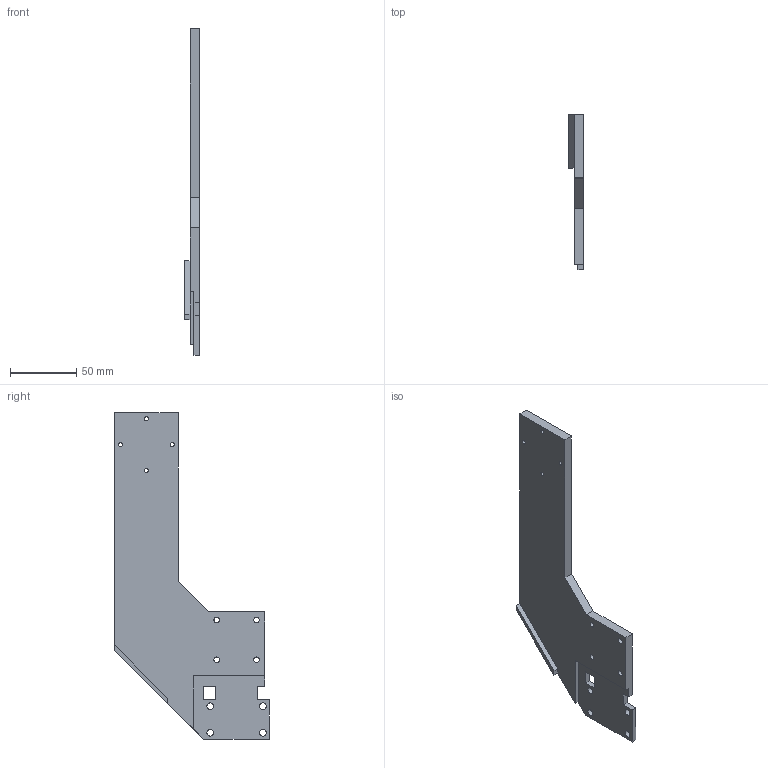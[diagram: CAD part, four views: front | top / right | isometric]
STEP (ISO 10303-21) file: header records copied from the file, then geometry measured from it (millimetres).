
FILE_DESCRIPTION(/* description */ ('STEP AP242 Edition 2','CAx-IF Rec.Pracs.---Representation and Presentation of Product Manufacturing Information (PMI)---4.0---2014-10-13','CAx-IF Rec.Pracs.---3D Tessellated Geometry---0.4---2014-09-14','2;1','CAx-IF Rec.Pracs.---User Defined Attributes---1.5---2016-08-15'),/* implementation_level */ '2;1');
FILE_NAME(/* name */ 'Y-Axis Lift Bracket (Left)',/* time_stamp */ '2025-11-29T19:52:45Z',/* author */ (''),/* organization */ (''),/* preprocessor_version */ 'ST-DEVELOPER v20',/* originating_system */ 'ONSHAPE BY PTC INC, 1.207',/* authorisation */ ' ');
FILE_SCHEMA (('AP242_MANAGED_MODEL_BASED_3D_ENGINEERING_MIM_LF { 1 0 10303 442 3 1 4 }'));
Length unit declared in the file: metre
Products named in the file (1): Part 1
Bounding box: 11 x 116.72 x 245.99 mm (x, y, z)
Volume: 104292.5 mm3; surface area: 37919.8 mm2
Topology: 1 solids, 1 shells, 36 faces, 102 edges, 68 vertices
Faces by surface type: plane 24, cylinder 12
Full cylindrical faces by diameter (mm): 3 x4, 4.2 x4, 5.1 x4
Entity records: 1184 total; most frequent: CARTESIAN_POINT 195, DIRECTION 188, ORIENTED_EDGE 180, EDGE_CURVE 90, EDGE_LOOP 74, FACE_BOUND 74, VERTEX_POINT 68, LINE 66
